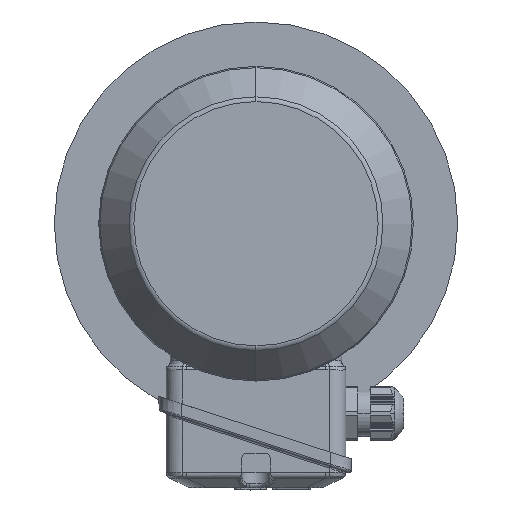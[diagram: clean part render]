
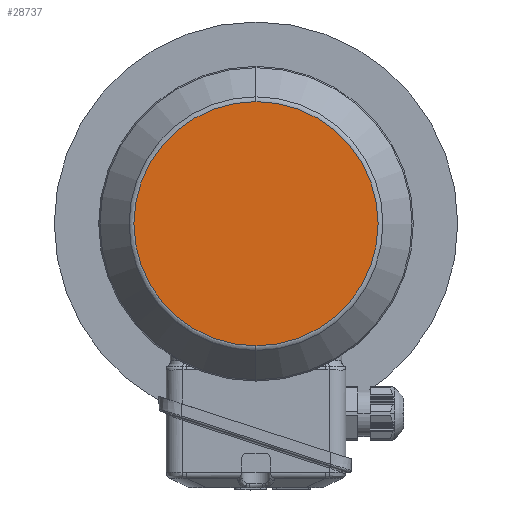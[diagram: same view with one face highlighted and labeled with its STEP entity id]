
A CAD part, left-side view. The second image highlights one B-rep face of the part: STEP entity #28737.
In plain terms, the highlighted planar face has unit normal (-1, 0, 0).
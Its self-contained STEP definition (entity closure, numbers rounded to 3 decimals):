
#289 = VERTEX_POINT ( 'NONE', #43823 ) ;
#2260 = CARTESIAN_POINT ( 'NONE',  ( -144.9, 0., -60.537 ) ) ;
#5796 = ORIENTED_EDGE ( 'NONE', *, *, #8305, .F. ) ;
#8305 = EDGE_CURVE ( 'NONE', #289, #33232, #13745, .T. ) ;
#9044 = DIRECTION ( 'NONE',  ( -1., 0., 0. ) ) ;
#12852 = FACE_OUTER_BOUND ( 'NONE', #43829, .T. ) ;
#13204 = DIRECTION ( 'NONE',  ( 0., 0., -1. ) ) ;
#13745 = CIRCLE ( 'NONE', #40424, 60.537 ) ;
#15205 = CARTESIAN_POINT ( 'NONE',  ( -144.9, 0., 0. ) ) ;
#16744 = ORIENTED_EDGE ( 'NONE', *, *, #36222, .F. ) ;
#19824 = DIRECTION ( 'NONE',  ( 1., 0., 0. ) ) ;
#21178 = AXIS2_PLACEMENT_3D ( 'NONE', #30308, #19824, #13204 ) ;
#22034 = DIRECTION ( 'NONE',  ( 0., 1., 0. ) ) ;
#22387 = CARTESIAN_POINT ( 'NONE',  ( -144.9, 0., -60.537 ) ) ;
#26575 = CIRCLE ( 'NONE', #21178, 60.537 ) ;
#28051 = DIRECTION ( 'NONE',  ( 1., 0., 0. ) ) ;
#28737 = ADVANCED_FACE ( 'NONE', ( #12852 ), #42329, .T. ) ;
#30308 = CARTESIAN_POINT ( 'NONE',  ( -144.9, 0., 0. ) ) ;
#33232 = VERTEX_POINT ( 'NONE', #22387 ) ;
#36222 = EDGE_CURVE ( 'NONE', #33232, #289, #26575, .T. ) ;
#39697 = AXIS2_PLACEMENT_3D ( 'NONE', #2260, #9044, #22034 ) ;
#40424 = AXIS2_PLACEMENT_3D ( 'NONE', #15205, #28051, #41710 ) ;
#41710 = DIRECTION ( 'NONE',  ( 0., 0., -1. ) ) ;
#42329 = PLANE ( 'NONE',  #39697 ) ;
#43823 = CARTESIAN_POINT ( 'NONE',  ( -144.9, 0., 60.537 ) ) ;
#43829 = EDGE_LOOP ( 'NONE', ( #16744, #5796 ) ) ;
